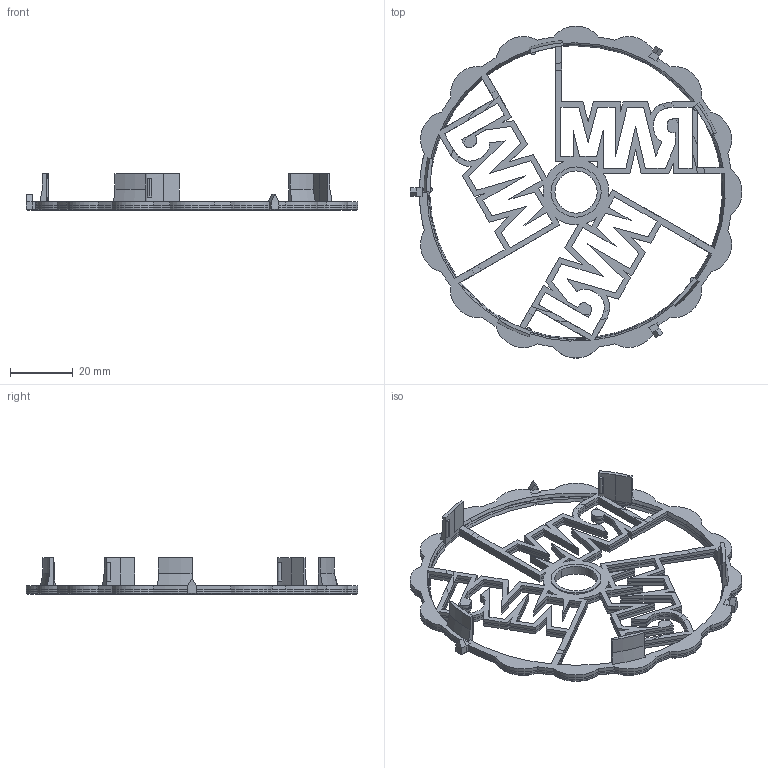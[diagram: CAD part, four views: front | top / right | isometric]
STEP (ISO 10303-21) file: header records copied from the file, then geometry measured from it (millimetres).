
FILE_DESCRIPTION (( 'STEP AP214' ), '1' );
FILE_NAME ('Dial_v3.2.STEP', '2019-04-03T06:17:15', ( '' ), ( '' ), 'SwSTEP 2.0', 'SolidWorks 2018', '' );
FILE_SCHEMA (( 'AUTOMOTIVE_DESIGN' ));
Length unit declared in the file: millimetre
Products named in the file (1): Dial_v3.2
Bounding box: 105.97 x 105.97 x 11.8 mm (x, y, z)
Volume: 8383.6 mm3; surface area: 21993 mm2
Topology: 2 solids, 2 shells, 1077 faces, 3218 edges, 2119 vertices
Faces by surface type: plane 669, cylinder 258, cone 105, bspline 45
Entity records: 37238 total; most frequent: CARTESIAN_POINT 7801, ORIENTED_EDGE 6436, DIRECTION 5749, EDGE_CURVE 3218, VECTOR 2235, LINE 2235, VERTEX_POINT 2119, AXIS2_PLACEMENT_3D 1757
